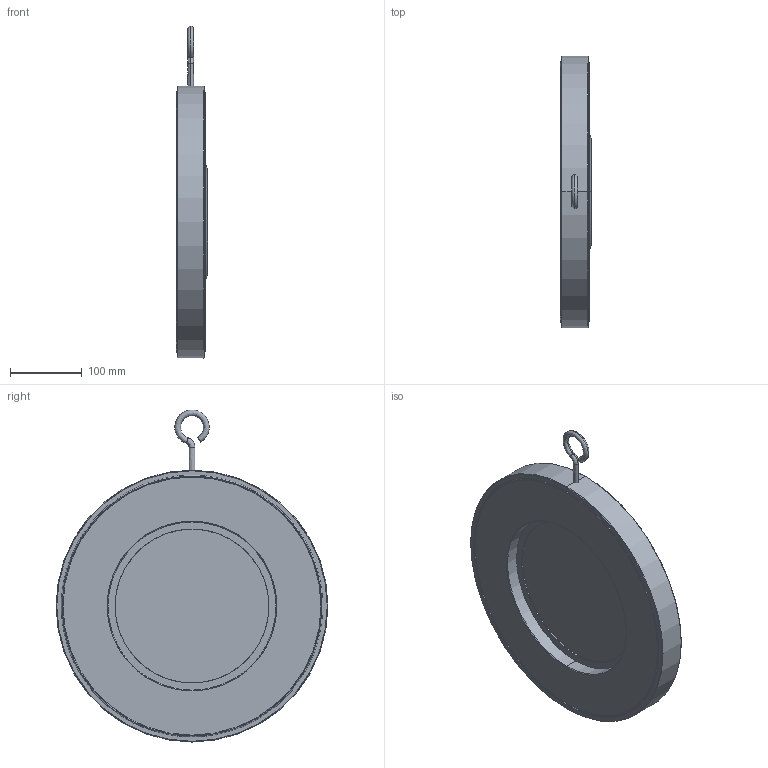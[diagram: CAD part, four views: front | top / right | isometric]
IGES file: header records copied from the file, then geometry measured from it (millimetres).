
Start section: SolidWorks IGES file using analytic representation for surfaces
Global section: file name: C:\Users\Administrator\Desktop\temp\0.IGS; native system: SolidWorks 2015; preprocessor: SolidWorks 2015; author: Administrator; date: 170404.092106; units: millimetre
Bounding box: 43.5 x 380 x 464 mm (x, y, z)
Surface area: 381848.8 mm2 (no closed solid volume)
Topology: 0 solids, 0 shells, 182 faces, 2834 edges, 2832 vertices
Faces by surface type: bspline 112, revolution 70
